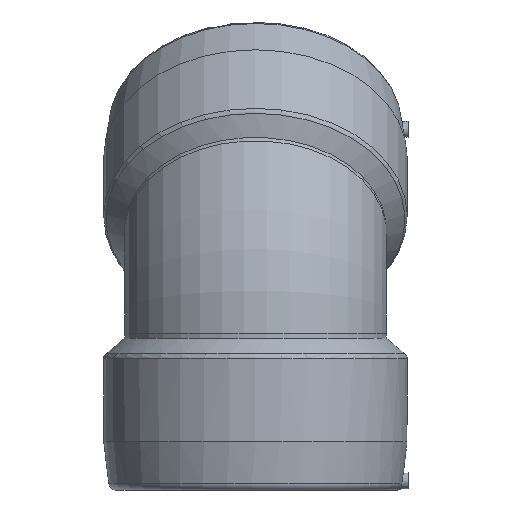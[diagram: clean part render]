
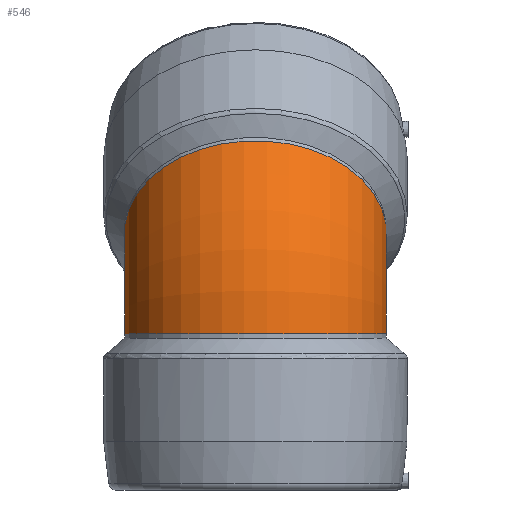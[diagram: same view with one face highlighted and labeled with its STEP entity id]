
A CAD part, left-side view. The second image highlights one B-rep face of the part: STEP entity #546.
In plain terms, the highlighted toroidal (fillet/blend) face has major radius 181.066 mm and minor radius 167.5 mm.
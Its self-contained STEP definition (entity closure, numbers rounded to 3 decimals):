
#68=TOROIDAL_SURFACE('',#604,181.066,167.5);
#90=ORIENTED_EDGE('',*,*,#230,.T.);
#91=ORIENTED_EDGE('',*,*,#232,.T.);
#92=ORIENTED_EDGE('',*,*,#233,.F.);
#93=ORIENTED_EDGE('',*,*,#234,.F.);
#230=EDGE_CURVE('',#302,#301,#354,.F.);
#232=EDGE_CURVE('',#301,#303,#355,.F.);
#233=EDGE_CURVE('',#304,#303,#356,.F.);
#234=EDGE_CURVE('',#302,#304,#357,.F.);
#301=VERTEX_POINT('',#861);
#302=VERTEX_POINT('',#863);
#303=VERTEX_POINT('',#867);
#304=VERTEX_POINT('',#869);
#354=CIRCLE('',#603,167.5);
#355=CIRCLE('',#605,14.563);
#356=CIRCLE('',#606,167.5);
#357=CIRCLE('',#607,14.563);
#394=EDGE_LOOP('',(#90,#91,#92,#93));
#463=FACE_BOUND('',#394,.T.);
#546=ADVANCED_FACE('',(#463),#68,.T.);
#603=AXIS2_PLACEMENT_3D('',#862,#690,#691);
#604=AXIS2_PLACEMENT_3D('',#865,#693,#694);
#605=AXIS2_PLACEMENT_3D('',#866,#695,#696);
#606=AXIS2_PLACEMENT_3D('',#868,#697,#698);
#607=AXIS2_PLACEMENT_3D('',#870,#699,#700);
#690=DIRECTION('',(0.,0.,-1.));
#691=DIRECTION('',(1.,0.,0.));
#693=DIRECTION('',(0.,1.,0.));
#694=DIRECTION('',(0.,0.,1.));
#695=DIRECTION('',(0.,-1.,0.));
#696=DIRECTION('',(0.,0.,-1.));
#697=DIRECTION('',(-0.707,0.,-0.707));
#698=DIRECTION('',(0.707,0.,-0.707));
#699=DIRECTION('',(0.,-1.,0.));
#700=DIRECTION('',(0.,0.,-1.));
#861=CARTESIAN_POINT('',(166.503,-18.25,-75.));
#862=CARTESIAN_POINT('',(0.,0.,-75.));
#863=CARTESIAN_POINT('',(166.503,18.25,-75.));
#865=CARTESIAN_POINT('',(181.066,0.,-75.));
#866=CARTESIAN_POINT('',(181.066,-18.25,-75.));
#867=CARTESIAN_POINT('',(170.768,-18.25,-64.702));
#868=CARTESIAN_POINT('',(53.033,0.,53.033));
#869=CARTESIAN_POINT('',(170.768,18.25,-64.702));
#870=CARTESIAN_POINT('',(181.066,18.25,-75.));
